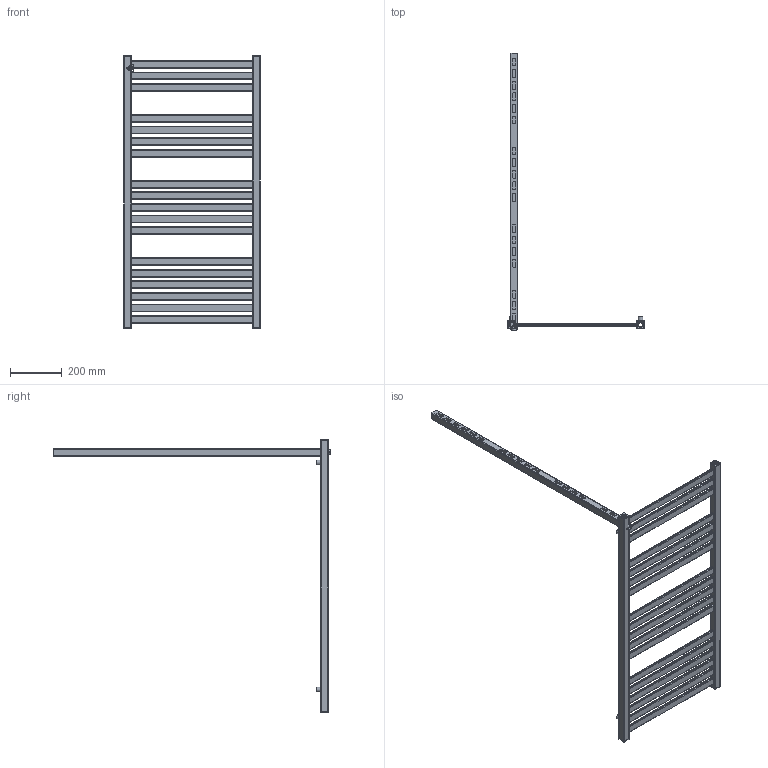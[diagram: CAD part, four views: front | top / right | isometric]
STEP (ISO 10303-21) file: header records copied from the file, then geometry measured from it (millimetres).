
FILE_DESCRIPTION( ( 'Unknown' ), '1' );
FILE_NAME( 'D:/Alplast sp. j/Witryna zespoBu - Projekty/Archiwum/Grzejniki Archiwum/Projekty/STANDARD/AK-EP/AK4-500EP.stp', 'Unknown', ( 'Unknown' ), ( 'Unknown' ), 'PSStep 10.1', 'Unknown', ' ' );
FILE_SCHEMA( ( 'AUTOMOTIVE_DESIGN { 1 0 10303 214 1 1 1 1 }' ) );
Length unit declared in the file: millimetre
Products named in the file (5): Assem1; zaslepka kwadrat otwor; AK4-EPEL; kana³  poziomy 30x10  500; mocowanie
Bounding box: 530 x 1074 x 1060.13 mm (x, y, z)
Volume: 1493153.9 mm3; surface area: 2000262 mm2
Topology: 32 solids, 32 shells, 892 faces, 2454 edges, 1636 vertices
Faces by surface type: plane 506, cylinder 376, torus 10
Full cylindrical faces by diameter (mm): 16 x5, 18 x5, 18.631 x5, 23 x5
Entity records: 8602 total; most frequent: DIRECTION 1234, CARTESIAN_POINT 1193, ORIENTED_EDGE 1148, EDGE_CURVE 574, AXIS2_PLACEMENT_3D 427, VERTEX_POINT 386, LINE 380, VECTOR 380
